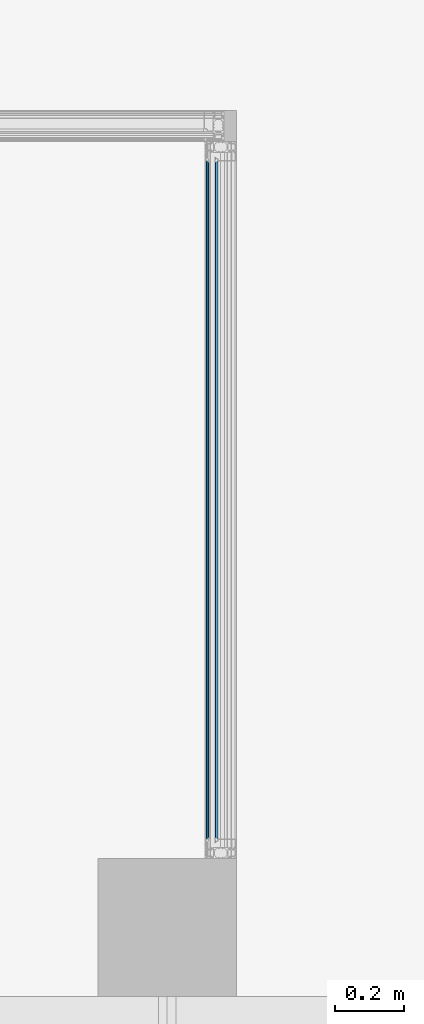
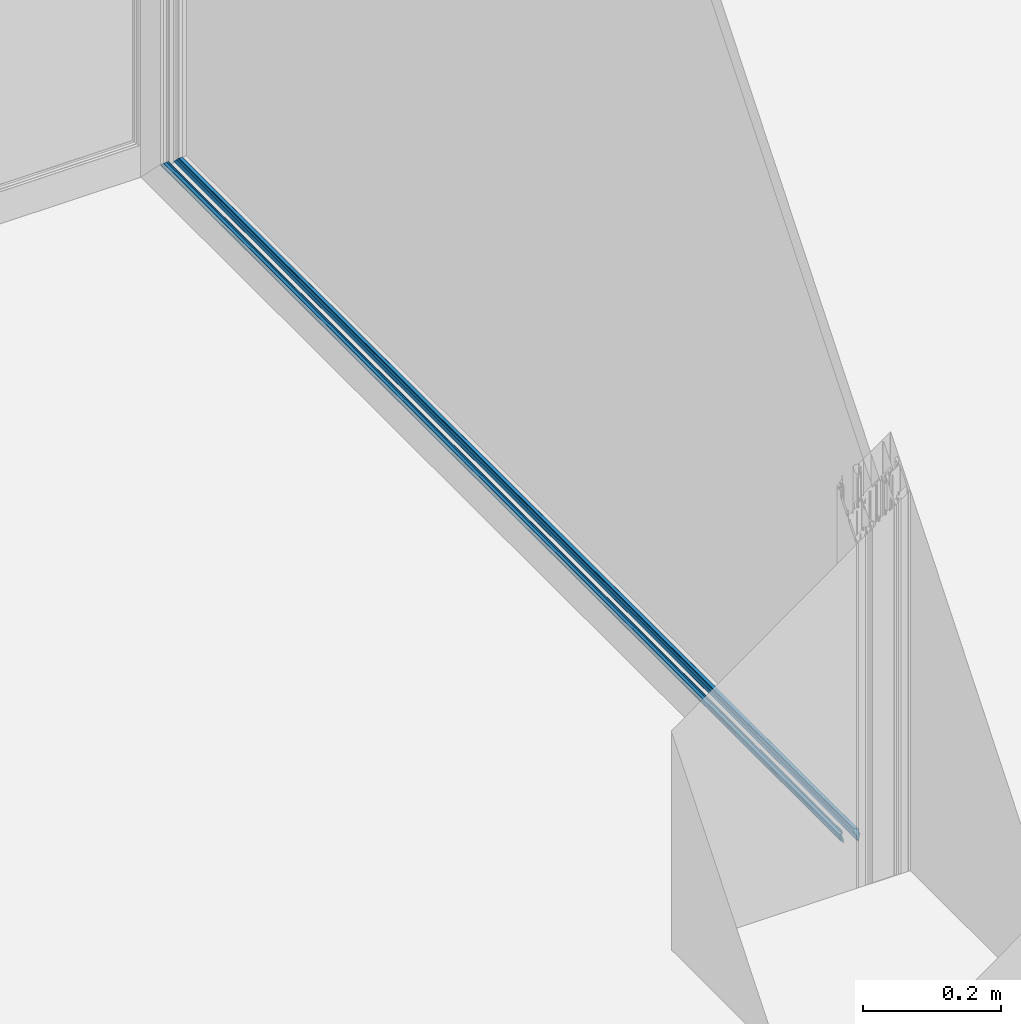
# One storey, part 23 of 69: 1 building element part, 2 elements without a shape of their own.
"""IFC2X3 building model written with IfcOpenShell, lengths in millimetres."""

import ifcopenshell
import ifcopenshell.guid

model = None  # the IFC model being written
_history = None  # IfcOwnerHistory: only IFC2X3 demands one
_inside = {}  # id of a spatial element -> (the spatial element, [elements in it])
_under = {}  # id of a project, library or spatial element -> (it, [spatial elements below it])
_declared = {}  # id of a project -> (the project, [libraries it declares])
_typed = {}  # id of a type object -> (the type object, [elements of that type])
_made_of = {}  # id of a material, layer set ... -> (it, [elements and type objects made of it])


def new_model(schema):
    """Start an empty IFC model of exactly this schema.

    Asked for "IFC4X3", IfcOpenShell would pick the latest addendum, in which some entities
    have other attributes; the version numbers below select the first issue.
    IFC2X3 requires an IfcOwnerHistory on every rooted entity: one is made here for all.
    """
    global model, _history
    if schema == "IFC4X3":
        model = ifcopenshell.file(schema_version=(4, 3, 0, 0))
    else:
        model = ifcopenshell.file(schema=schema)
    _inside.clear()
    _under.clear()
    _declared.clear()
    _typed.clear()
    _made_of.clear()
    _history = None
    if model.schema == "IFC2X3":
        org = make("IfcOrganization", Name="unknown")
        user = make(
            "IfcPersonAndOrganization",
            ThePerson=make("IfcPerson", FamilyName="unknown"),
            TheOrganization=org,
        )
        app = make(
            "IfcApplication",
            ApplicationDeveloper=org,
            Version="unknown",
            ApplicationFullName="unknown",
            ApplicationIdentifier="unknown",
        )
        _history = make(
            "IfcOwnerHistory",
            OwningUser=user,
            OwningApplication=app,
            ChangeAction="ADDED",
            CreationDate=0,
        )
    return model


def make(cls, **values):
    """One entity of the class cls with the attributes given. An attribute that is None is left unset."""
    return model.create_entity(
        cls, **{name: value for name, value in values.items() if value is not None}
    )


def entity(cls, *values):
    """Any entity or typed value of the class cls, its attributes in the order of the schema. None: left unset."""
    e = model.create_entity(cls)
    for i, value in enumerate(values):
        if value is not None:
            e[i] = value
    return e


def rooted(cls, **values):
    """An entity with a GlobalId (a new one), such as an element, a storey or a relation."""
    return make(cls, GlobalId=ifcopenshell.guid.new(), OwnerHistory=_history, **values)


def si_unit(unit_type, name, prefix=None):
    """IfcSIUnit, for example si_unit("LENGTHUNIT", "METRE", prefix="MILLI")."""
    return make("IfcSIUnit", UnitType=unit_type, Prefix=prefix, Name=name)


def converted_unit(unit_type, name, factor, base, dimensions=None, offset=None):
    """IfcConversionBasedUnit, such as the inch: factor (a typed value) times the base unit."""
    return make(
        "IfcConversionBasedUnit"
        if offset is None
        else "IfcConversionBasedUnitWithOffset",
        ConversionOffset=offset,
        Dimensions=None
        if dimensions is None
        else entity("IfcDimensionalExponents", *dimensions),
        UnitType=unit_type,
        Name=name,
        ConversionFactor=make(
            "IfcMeasureWithUnit", ValueComponent=factor, UnitComponent=base
        ),
    )


def derived_unit(unit_type, elements):
    """IfcDerivedUnit: a product of units, each with its exponent."""
    return make(
        "IfcDerivedUnit",
        Elements=[
            make("IfcDerivedUnitElement", Unit=unit, Exponent=power)
            for unit, power in elements
        ],
        UnitType=unit_type,
    )


def money_unit(currency):
    """IfcMonetaryUnit."""
    return make("IfcMonetaryUnit", Currency=currency)


def assignment(units):
    """IfcUnitAssignment: the units of a project."""
    return None if units is None else make("IfcUnitAssignment", Units=units)


def point(xyz):
    """IfcCartesianPoint."""
    return None if xyz is None else make("IfcCartesianPoint", Coordinates=xyz)


def direction(xyz):
    """IfcDirection."""
    return None if xyz is None else make("IfcDirection", DirectionRatios=xyz)


def frame(location, z_axis=None, x_axis=None):
    """IfcAxis2Placement3D, a coordinate frame: its origin and axes. An axis left out is left unset."""
    return make(
        "IfcAxis2Placement3D",
        Location=point(location),
        Axis=direction(z_axis),
        RefDirection=direction(x_axis),
    )


def origin_with_axes():
    """The frame at (0, 0, 0) with the z axis (0, 0, 1) and the x axis (1, 0, 0) written out."""
    return frame((0.0, 0.0, 0.0), z_axis=(0.0, 0.0, 1.0), x_axis=(1.0, 0.0, 0.0))


def place(relative_to, where):
    """IfcLocalPlacement: puts the frame where relative to a parent placement (None: the world)."""
    return make(
        "IfcLocalPlacement", PlacementRelTo=relative_to, RelativePlacement=where
    )


def context(
    kind, dimensions, precision=None, world=None, true_north=None, identifier=None
):
    """IfcGeometricRepresentationContext, for example the 3D "Model" context."""
    return make(
        "IfcGeometricRepresentationContext",
        ContextIdentifier=identifier,
        ContextType=kind,
        CoordinateSpaceDimension=dimensions,
        Precision=precision,
        WorldCoordinateSystem=world,
        TrueNorth=true_north,
    )


def subcontext(parent, identifier, kind, view, scale=None):
    """IfcGeometricRepresentationSubContext, for example "Body" below "Model"."""
    return make(
        "IfcGeometricRepresentationSubContext",
        ContextIdentifier=identifier,
        ContextType=kind,
        ParentContext=parent,
        TargetScale=scale,
        TargetView=view,
    )


def project(units=None, contexts=None):
    """IfcProject with its units and contexts."""
    return rooted(
        "IfcProject",
        Name="project",
        RepresentationContexts=contexts,
        UnitsInContext=assignment(units),
    )


def spatial(cls, under=None, at=None, **own):
    """A site, building, storey or space (cls), placed at a placement, below another one or the project."""
    s = rooted(cls, ObjectPlacement=at, **own)
    if under is not None:
        _under.setdefault(under.id(), (under, []))[1].append(s)
    return s


def faces_of(points, faces, orient=None, outer=None):
    """IfcFace entities. A face is a list of loops; a loop is a list of indices into points, from 0.

    orient and outer hold one flag for each loop. By default every Orientation is true, the
    first loop of a face is its IfcFaceOuterBound and the others are IfcFaceBound.
    """
    made = []
    for i, loops in enumerate(faces):
        bounds = []
        for j, loop in enumerate(loops):
            is_outer = j == 0 if outer is None else outer[i][j]
            bounds.append(
                make(
                    "IfcFaceOuterBound" if is_outer else "IfcFaceBound",
                    Bound=make("IfcPolyLoop", Polygon=[points[k] for k in loop]),
                    Orientation=True if orient is None else orient[i][j],
                )
            )
        made.append(make("IfcFace", Bounds=bounds))
    return made


def faceted_brep(points, faces, orient=None, outer=None, voids=None):
    """IfcFacetedBrep: a solid bounded by flat faces; with voids (closed shells), ...WithVoids."""
    shared = [point(p) for p in points]
    hull = make("IfcClosedShell", CfsFaces=faces_of(shared, faces, orient, outer))
    if voids is None:
        return make("IfcFacetedBrep", Outer=hull)
    return make(
        "IfcFacetedBrepWithVoids",
        Outer=hull,
        Voids=[
            make(cls, CfsFaces=faces_of(shared, fs, o, b)) for cls, fs, o, b in voids
        ],
    )


def shape(context_of_items, identifier, shape_type, items):
    """IfcShapeRepresentation: the items that make up one representation, for example the "Body"."""
    return make(
        "IfcShapeRepresentation",
        ContextOfItems=context_of_items,
        RepresentationIdentifier=identifier,
        RepresentationType=shape_type,
        Items=items,
    )


def material(Name=None, Category=None):
    """IfcMaterial."""
    return make("IfcMaterial", Name=Name, Category=Category)


def made_of(thing, what):
    """Note that an element or type object is made of a material, layer set ...; save() writes the relation."""
    if what is not None:
        _made_of.setdefault(what.id(), (what, []))[1].append(thing)
    return thing


def type_object(cls, material=None, **own):
    """A type object (cls), such as IfcWallType, which elements share."""
    return made_of(rooted(cls, **own), material)


def element(
    cls,
    number,
    at=None,
    inside=None,
    cuts=None,
    type_object=None,
    material=None,
    context=None,
    identifier="Body",
    shape_type=None,
    held_by="IfcProductDefinitionShape",
    body=None,
    shapes=None,
    **own,
):
    """One element of the class cls, such as IfcWall. Its Tag is "e" and its number.

    at: its placement. inside: the storey or other place that contains it. cuts: it is an
    opening in that element (IfcRelVoidsElement). A single representation is given by context,
    identifier, shape_type and body (its items); several are given by shapes. held_by: the class
    of the entity that holds the representations. save() writes the other relations.
    """
    e = rooted(cls, Tag="e%d" % number, ObjectPlacement=at, **own)
    if body is not None:
        shapes = [shape(context, identifier, shape_type, body)]
    if shapes is not None:
        e.Representation = make(held_by, Representations=shapes)
    if inside is not None:
        _inside.setdefault(inside.id(), (inside, []))[1].append(e)
    if cuts is not None:
        rooted(
            "IfcRelVoidsElement", RelatingBuildingElement=cuts, RelatedOpeningElement=e
        )
    if type_object is not None:
        _typed.setdefault(type_object.id(), (type_object, []))[1].append(e)
    return made_of(e, material)


def aggregate(whole, parts):
    """IfcRelAggregates: a whole, such as a stair, and the parts it consists of."""
    return rooted("IfcRelAggregates", RelatingObject=whole, RelatedObjects=parts)


def save(model, path):
    """Write the relations noted so far, then the file.

    IfcRelAggregates (storeys below a building ...), IfcRelContainedInSpatialStructure (elements
    in a storey), IfcRelDefinesByType, IfcRelAssociatesMaterial and IfcRelDeclares: one each for
    every whole, place, type object, material and project.
    """
    for whole, parts in _under.values():
        aggregate(whole, parts)
    for where, things in _inside.values():
        rooted(
            "IfcRelContainedInSpatialStructure",
            RelatedElements=things,
            RelatingStructure=where,
        )
    for kind, things in _typed.values():
        rooted("IfcRelDefinesByType", RelatedObjects=things, RelatingType=kind)
    for what, things in _made_of.values():
        rooted("IfcRelAssociatesMaterial", RelatedObjects=things, RelatingMaterial=what)
    for by, libraries in _declared.values():
        rooted("IfcRelDeclares", RelatingContext=by, RelatedDefinitions=libraries)
    model.write(path)


model = new_model("IFC2X3")

# Units and contexts
model_context = context("Model", 3, precision=0.01, world=origin_with_axes(), true_north=direction((0.0, 1.0)))
body_context = subcontext(model_context, "Body", "Model", "MODEL_VIEW")
ifc_project = project(units=[si_unit("LENGTHUNIT", "METRE", prefix="MILLI"), si_unit("AREAUNIT", "SQUARE_METRE"), si_unit("VOLUMEUNIT", "CUBIC_METRE"), converted_unit("PLANEANGLEUNIT", "DEGREE", entity("IfcPlaneAngleMeasure", 0.0174532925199), si_unit("PLANEANGLEUNIT", "RADIAN"), dimensions=[0, 0, 0, 0, 0, 0, 0]), si_unit("SOLIDANGLEUNIT", "STERADIAN"), money_unit("EUR"), converted_unit("TIMEUNIT", "Year", entity("IfcTimeMeasure", 31556926.0), si_unit("TIMEUNIT", "SECOND"), dimensions=[0, 0, 1, 0, 0, 0, 0]), si_unit("MASSUNIT", "GRAM", prefix="KILO"), si_unit("THERMODYNAMICTEMPERATUREUNIT", "DEGREE_CELSIUS"), si_unit("LUMINOUSINTENSITYUNIT", "LUMEN"), si_unit("ENERGYUNIT", "JOULE", prefix="MEGA"), derived_unit("THERMALCONDUCTANCEUNIT", [(si_unit("POWERUNIT", "WATT"), 1), (si_unit("LENGTHUNIT", "METRE"), -1), (si_unit("THERMODYNAMICTEMPERATUREUNIT", "KELVIN"), -1)]), derived_unit("SPECIFICHEATCAPACITYUNIT", [(si_unit("ENERGYUNIT", "JOULE"), 1), (si_unit("MASSUNIT", "GRAM", prefix="KILO"), -1), (si_unit("THERMODYNAMICTEMPERATUREUNIT", "KELVIN"), -1)]), derived_unit("MASSDENSITYUNIT", [(si_unit("MASSUNIT", "GRAM", prefix="KILO"), 1), (si_unit("VOLUMEUNIT", "CUBIC_METRE"), -1)])], contexts=[model_context])

# Site, building, storey
site_placement = place(None, origin_with_axes())
site = spatial("IfcSite", under=ifc_project, at=site_placement, Name="Puškini 31, Narva", CompositionType="ELEMENT")
building_placement = place(site_placement, origin_with_axes())
building = spatial("IfcBuilding", under=site, at=building_placement, Name="Narva Riigigümnaasium", CompositionType="ELEMENT")
storey_placement = place(building_placement, origin_with_axes())
storey = spatial("IfcBuildingStorey", under=building, at=storey_placement, Name="1.korrus 0.00", CompositionType="ELEMENT", Elevation=0.0)

# Curtain wall, member, building element part
curtain_wall_type = type_object("IfcCurtainWallType", Name="Curtain Wall Type", PredefinedType="NOTDEFINED")
curtain_wall_placement = place(storey_placement, frame((22285.3673645, 151537.502931, -7.26812883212e-05), z_axis=(0.0, 0.0, 1.0), x_axis=(1.0, 0.0, 0.0)))
curtain_wall = element("IfcCurtainWall", 1, at=curtain_wall_placement, inside=storey, type_object=curtain_wall_type, Name="G-KLF-01-2")
member_type = type_object("IfcMemberType", Name="61 x 45", PredefinedType="MULLION")
member_placement = place(curtain_wall_placement, frame((0.0, -1037.50292152, 1.740620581e-05), z_axis=(0.0, 1.0, 0.0), x_axis=(0.0, 0.0, 1.0)))
member = element("IfcMember", 2, at=member_placement, type_object=member_type, Name="G-SKLF-02-raam", ObjectType="MULLION")
aggregate(curtain_wall, [member])
ifc_material = material(Name="Membraan - Veekindel")
building_element_part_placement = place(member_placement, origin_with_axes())
building_element_part = element("IfcBuildingElementPart", 3, at=building_element_part_placement, material=ifc_material, Name="Membraan - Veekindel", context=body_context, shape_type="Brep", body=[
    faceted_brep([(59.5800222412, -34.73794757, 59.5800222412), (61.0413385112, -34.3890442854, 61.0413385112), (61.0413385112, -34.3890442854, 2013.96450452), (59.5800222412, -34.73794757, 2015.42582079), (58.4755028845, -35.3628499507, 58.4755028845), (57.9693613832, -36.5265882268, 57.9693613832), (57.7000324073, -39.5999584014, 57.7000324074), (57.6464370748, -39.7999717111, 57.6464370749), (57.5000161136, -39.9463912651, 57.5000161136), (57.3000022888, -39.9999846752, 57.3000022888), (57.3000022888, -39.1999494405, 57.3000022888), (55.3000210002, -39.1999606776, 55.3000210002), (55.2330337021, -38.9499606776, 55.2330337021), (55.0500210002, -38.7669479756, 55.0500210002), (54.8000210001, -38.6999606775, 54.8000210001), (54.5500210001, -38.7669479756, 54.550021), (54.3670082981, -38.9499606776, 54.3670082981), (54.300021, -39.1999606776, 54.300021), (54.300021, -40.4999366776, 54.300021), (54.3402133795, -40.6499366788, 54.3402133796), (54.4500210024, -40.7597443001, 54.4500210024), (54.6000210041, -40.7999366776, 54.6000210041), (54.7000173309, -40.7999366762, 54.7000173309), (54.866675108, -40.850483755, 54.866675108), (54.9771753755, -40.9850924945, 54.9771753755), (54.9942836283, -41.1584047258, 54.9942836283), (54.9122350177, -41.3120206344, 54.9122350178), (53.8716106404, -42.3533776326, 53.8716106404), (53.7093558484, -42.4618547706, 53.7093558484), (53.517932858, -42.4999486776, 53.517932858), (51.8818844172, -42.4999486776, 51.8818844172), (51.6904310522, -42.4618421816, 51.6904310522), (51.5281601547, -42.3533311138, 51.5281601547), (50.4878083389, -41.3119729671, 50.4878083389), (50.4057850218, -41.1583618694, 50.4057850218), (50.4229059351, -40.9850671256, 50.4229059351), (50.5334025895, -40.8504763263, 50.5334025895), (50.7000457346, -40.7999366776, 50.7000457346), (50.80004, -40.7999366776, 50.80004), (50.95004, -40.7597442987, 50.95004), (51.0598476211, -40.6499366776, 51.0598476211), (51.10004, -40.4999366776, 51.10004), (51.10004, -39.1999550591, 51.10004), (51.0330541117, -38.9499546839, 51.0330541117), (50.8500424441, -38.7669409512, 50.8500424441), (50.6000428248, -38.699952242, 50.6000428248), (50.3500424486, -38.7669381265, 50.3500424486), (50.1670287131, -38.9499497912, 50.1670287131), (50.10004, -39.1999494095, 50.10004), (48.7206527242, -39.1999494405, 48.7206527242), (48.7206527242, -38.0023809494, 48.7206527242), (48.7876400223, -37.7523809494, 48.7876400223), (48.9706527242, -37.5693682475, 48.9706527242), (49.2206527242, -37.5023809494, 49.2206527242), (50.3319753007, -37.5023809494, 50.3319753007), (50.5819753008, -37.4353936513, 50.5819753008), (50.7649880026, -37.2523809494, 50.7649880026), (51.1691331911, -36.5523809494, 51.1691331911), (51.352145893, -36.3693682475, 51.352145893), (51.602145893, -36.3023809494, 51.602145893), (53.8391557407, -36.3023809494, 53.8391557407), (54.0891557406, -36.3693682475, 54.0891557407), (54.2721684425, -36.5523809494, 54.2721684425), (54.676313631, -37.2523809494, 54.676313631), (54.8593263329, -37.4353936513, 54.8593263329), (55.1093263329, -37.5023809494, 55.1093263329), (55.7607444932, -37.5023809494, 55.7607444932), (55.9795989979, -37.4519392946, 55.9795989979), (56.1542959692, -37.3107917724, 56.1542959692), (56.2495873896, -37.1074172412, 56.2495873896), (56.9567944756, -35.6067920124, 56.9567944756), (58.2346494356, -34.5489145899, 58.2346494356), (59.8409257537, -34.1343131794, 59.8409257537), (60.7381535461, -33.9217644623, 60.7381535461), (61.0108941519, -33.784859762, 61.0108941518), (61.1423164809, -33.9681748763, 61.1423164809), (61.1536677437, -34.1934467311, 61.1536677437), (53.5000340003, -40.7999553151, 53.5000340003), (53.433048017, -39.44993177, 53.433048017), (53.2500389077, -39.2669226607, 53.2500389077), (53.0000438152, -39.1999366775, 53.0000438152), (52.4000171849, -39.1999366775, 52.4000171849), (52.1500220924, -39.2669226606, 52.1500220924), (51.9670129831, -39.4499317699, 51.9670129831), (51.9000269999, -39.6999268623, 51.9000269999), (51.9000269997, -40.799955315, 51.9000269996), (51.9670118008, -41.0499459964, 51.9670118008), (52.150017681, -41.2329518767, 52.150017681), (52.4000083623, -41.299936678, 52.4000083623), (53.0000526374, -41.299936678, 53.0000526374), (53.2500433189, -41.2329518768, 53.2500433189), (53.4330491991, -41.0499459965, 53.4330491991), (61.1536677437, -34.1934467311, 2013.85217529), (61.1423164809, -33.9681748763, 2013.86352655), (61.0108941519, -33.784859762, 2013.99494888), (60.7381535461, -33.9217644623, 2014.26768948), (59.8409257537, -34.1343131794, 2015.16491728), (58.2346494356, -34.5489145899, 2016.7711936), (56.9567944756, -35.6067920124, 2018.04904856), (56.2495873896, -37.1074172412, 2018.75625564), (56.1542959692, -37.3107917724, 2018.85154706), (55.9795989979, -37.4519392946, 2019.02624403), (55.7607444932, -37.5023809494, 2019.24509854), (55.1093263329, -37.5023809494, 2019.8965167), (54.8593263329, -37.4353936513, 2020.1465167), (54.676313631, -37.2523809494, 2020.3295294), (54.2721684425, -36.5523809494, 2020.73367459), (54.0891557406, -36.3693682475, 2020.91668729), (53.8391557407, -36.3023809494, 2021.16668729), (51.602145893, -36.3023809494, 2023.40369714), (51.352145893, -36.3693682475, 2023.65369714), (51.1691331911, -36.5523809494, 2023.83670984), (50.7649880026, -37.2523809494, 2024.24085503), (50.5819753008, -37.4353936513, 2024.42386773), (50.3319753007, -37.5023809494, 2024.67386773), (49.2206527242, -37.5023809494, 2025.78519031), (48.9706527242, -37.5693682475, 2026.03519031), (48.7876400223, -37.7523809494, 2026.21820301), (48.7206527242, -38.0023809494, 2026.28519031), (48.7206527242, -39.1999494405, 2026.28519031), (50.10004, -39.1999494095, 2024.90580303), (50.1670287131, -38.9499497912, 2024.83881432), (50.3500424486, -38.7669381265, 2024.65580058), (50.6000428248, -38.699952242, 2024.40580021), (50.8500424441, -38.7669409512, 2024.15580059), (51.0330541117, -38.9499546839, 2023.97278892), (51.10004, -39.1999550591, 2023.90580303), (51.10004, -40.4999366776, 2023.90580303), (51.0598476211, -40.6499366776, 2023.94599541), (50.95004, -40.7597442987, 2024.05580303), (50.80004, -40.7999366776, 2024.20580303), (50.7000457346, -40.7999366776, 2024.3057973), (50.5334025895, -40.8504763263, 2024.47244044), (50.4229059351, -40.9850671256, 2024.5829371), (50.4057850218, -41.1583618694, 2024.60005801), (50.4878083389, -41.3119729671, 2024.51803469), (51.5281601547, -42.3533311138, 2023.47768288), (51.6904310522, -42.4618421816, 2023.31541198), (51.8818844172, -42.4999486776, 2023.12395861), (53.517932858, -42.4999486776, 2021.48791017), (53.7093558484, -42.4618547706, 2021.29648718), (53.8716106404, -42.3533776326, 2021.13423239), (54.9122350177, -41.3120206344, 2020.09360801), (54.9942836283, -41.1584047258, 2020.0115594), (54.9771753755, -40.9850924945, 2020.02866766), (54.866675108, -40.850483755, 2020.13916792), (54.7000173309, -40.7999366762, 2020.3058257), (54.6000210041, -40.7999366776, 2020.40582203), (54.4500210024, -40.7597443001, 2020.55582203), (54.3402133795, -40.6499366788, 2020.66562965), (54.300021, -40.4999366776, 2020.70582203), (54.300021, -39.1999606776, 2020.70582203), (54.3670082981, -38.9499606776, 2020.63883473), (54.5500210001, -38.7669479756, 2020.45582203), (54.8000210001, -38.6999606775, 2020.20582203), (55.0500210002, -38.7669479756, 2019.95582203), (55.2330337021, -38.9499606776, 2019.77280933), (55.3000210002, -39.1999606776, 2019.70582203), (57.3000022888, -39.1999494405, 2017.70584074), (57.3000022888, -39.9999846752, 2017.70584074), (57.5000161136, -39.946391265, 2017.50582692), (57.6464370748, -39.799971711, 2017.35940596), (57.7000324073, -39.5999584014, 2017.30581062), (57.9693613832, -36.5265882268, 2017.03648165), (58.4755028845, -35.3628499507, 2016.53034015), (53.5000340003, -40.7999553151, 2021.50580903), (53.4330491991, -41.0499459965, 2021.57279383), (53.2500433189, -41.2329518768, 2021.75579971), (53.0000526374, -41.299936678, 2022.00579039), (52.4000083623, -41.299936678, 2022.60583467), (52.150017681, -41.2329518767, 2022.85582535), (51.9670118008, -41.0499459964, 2023.03883123), (51.9000269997, -40.799955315, 2023.10581603), (51.9000269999, -39.6999268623, 2023.10581603), (51.9670129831, -39.4499317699, 2023.03883005), (52.1500220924, -39.2669226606, 2022.85582094), (52.4000171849, -39.1999366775, 2022.60582585), (53.0000438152, -39.1999366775, 2022.00579922), (53.2500389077, -39.2669226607, 2021.75580412), (53.433048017, -39.44993177, 2021.57279501)], [[[0, 1, 2, 3]], [[1, 0, 4, 5, 6, 7, 8, 9, 10, 11, 12, 13, 14, 15, 16, 17, 18, 19, 20, 21, 22, 23, 24, 25, 26, 27, 28, 29, 30, 31, 32, 33, 34, 35, 36, 37, 38, 39, 40, 41, 42, 43, 44, 45, 46, 47, 48, 49, 50, 51, 52, 53, 54, 55, 56, 57, 58, 59, 60, 61, 62, 63, 64, 65, 66, 67, 68, 69, 70, 71, 72, 73, 74, 75, 76], [77, 78, 79, 80, 81, 82, 83, 84, 85, 86, 87, 88, 89, 90, 91]], [[1, 76, 92, 2]], [[2, 92, 93, 94, 95, 96, 97, 98, 99, 100, 101, 102, 103, 104, 105, 106, 107, 108, 109, 110, 111, 112, 113, 114, 115, 116, 117, 118, 119, 120, 121, 122, 123, 124, 125, 126, 127, 128, 129, 130, 131, 132, 133, 134, 135, 136, 137, 138, 139, 140, 141, 142, 143, 144, 145, 146, 147, 148, 149, 150, 151, 152, 153, 154, 155, 156, 157, 158, 159, 160, 161, 162, 163, 164, 3], [165, 166, 167, 168, 169, 170, 171, 172, 173, 174, 175, 176, 177, 178, 179]], [[4, 0, 3, 164]], [[5, 4, 164, 163]], [[6, 5, 163, 162]], [[7, 6, 162, 161]], [[8, 7, 161, 160]], [[9, 8, 160, 159]], [[10, 9, 159, 158]], [[11, 10, 158, 157]], [[12, 11, 157, 156]], [[13, 12, 156, 155]], [[14, 13, 155, 154]], [[15, 14, 154, 153]], [[16, 15, 153, 152]], [[17, 16, 152, 151]], [[18, 17, 151, 150]], [[19, 18, 150, 149]], [[20, 19, 149, 148]], [[21, 20, 148, 147]], [[22, 21, 147, 146]], [[23, 22, 146, 145]], [[24, 23, 145, 144]], [[25, 24, 144, 143]], [[26, 25, 143, 142]], [[27, 26, 142, 141]], [[28, 27, 141, 140]], [[29, 28, 140, 139]], [[30, 29, 139, 138]], [[31, 30, 138, 137]], [[32, 31, 137, 136]], [[33, 32, 136, 135]], [[34, 33, 135, 134]], [[35, 34, 134, 133]], [[36, 35, 133, 132]], [[37, 36, 132, 131]], [[38, 37, 131, 130]], [[39, 38, 130, 129]], [[40, 39, 129, 128]], [[41, 40, 128, 127]], [[42, 41, 127, 126]], [[43, 42, 126, 125]], [[44, 43, 125, 124]], [[45, 44, 124, 123]], [[46, 45, 123, 122]], [[47, 46, 122, 121]], [[48, 47, 121, 120]], [[49, 48, 120, 119]], [[50, 49, 119, 118]], [[51, 50, 118, 117]], [[52, 51, 117, 116]], [[53, 52, 116, 115]], [[54, 53, 115, 114]], [[55, 54, 114, 113]], [[56, 55, 113, 112]], [[57, 56, 112, 111]], [[58, 57, 111, 110]], [[59, 58, 110, 109]], [[60, 59, 109, 108]], [[61, 60, 108, 107]], [[62, 61, 107, 106]], [[63, 62, 106, 105]], [[64, 63, 105, 104]], [[65, 64, 104, 103]], [[66, 65, 103, 102]], [[67, 66, 102, 101]], [[68, 67, 101, 100]], [[69, 68, 100, 99]], [[70, 69, 99, 98]], [[71, 70, 98, 97]], [[72, 71, 97, 96]], [[73, 72, 96, 95]], [[74, 73, 95, 94]], [[75, 74, 94, 93]], [[76, 75, 93, 92]], [[78, 77, 165, 179]], [[79, 78, 179, 178]], [[80, 79, 178, 177]], [[81, 80, 177, 176]], [[82, 81, 176, 175]], [[83, 82, 175, 174]], [[84, 83, 174, 173]], [[85, 84, 173, 172]], [[86, 85, 172, 171]], [[87, 86, 171, 170]], [[88, 87, 170, 169]], [[89, 88, 169, 168]], [[90, 89, 168, 167]], [[91, 90, 167, 166]], [[77, 91, 166, 165]]]),
    faceted_brep([(55.9926715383, -16.8063498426, 55.9926715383), (59.0307115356, -16.554149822, 59.0307115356), (59.0307115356, -16.554149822, 2015.9751315), (55.9926715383, -16.8063498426, 2019.01317149), (53.7899070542, -16.6230039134, 53.7899070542), (53.1225200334, -16.3483062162, 53.1225200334), (51.5205025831, -15.0099586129, 51.5205025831), (51.3011765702, -14.8998814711, 51.3011765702), (51.0558924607, -14.9074036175, 51.0558924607), (50.8437237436, -15.0307134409, 50.8437237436), (50.5536994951, -15.2121179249, 50.5536994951), (46.298307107, -16.7340705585, 46.298307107), (45.950966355, -16.7718696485, 45.950966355), (45.6241929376, -16.6482027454, 45.6241929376), (45.3889077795, -16.3899097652, 45.3889077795), (45.3195226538, -16.2152275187, 45.3195226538), (45.3418968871, -15.7688623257, 45.3418968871), (45.6142070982, -15.4144760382, 45.6142070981), (51.8169217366, -8.74599822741, 51.8169217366), (51.938943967, -8.6326446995, 51.938943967), (52.1026310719, -8.60190419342, 52.1026310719), (52.2574645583, -8.66326410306, 52.2574645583), (52.3556584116, -8.79778701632, 52.3556584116), (52.7761212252, -9.95299910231, 52.7761212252), (52.8859560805, -10.0961386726, 52.8859560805), (53.0580290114, -10.1503930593, 53.0580290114), (55.1123574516, -10.1503930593, 55.1123574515), (55.2731258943, -10.1036784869, 55.2731258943), (55.3838261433, -9.9780831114, 55.3838261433), (55.4099827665, -9.81272116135, 55.4099827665), (55.2940485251, -8.85237785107, 55.2940485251), (55.3307332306, -8.72753828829, 55.3307332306), (55.4168250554, -8.62997353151, 55.4168250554), (55.5361285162, -8.57803733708, 55.5361285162), (56.9361285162, -8.30590490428, 56.9361285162), (57.0661058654, -8.3093438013, 57.0661058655), (57.1824204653, -8.36745448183, 57.1824204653), (57.2632233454, -8.46932121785, 57.2632233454), (57.5418652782, -10.0035930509, 57.5418652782), (59.3405112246, -15.0012955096, 59.3405112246), (59.5001582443, -15.5494067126, 59.5001582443), (59.3884652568, -16.1092618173, 59.3884652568), (59.3884652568, -16.1092618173, 2015.61737777), (59.5001582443, -15.5494067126, 2015.50568479), (59.3405112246, -15.0012955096, 2015.66533181), (57.5418652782, -10.0035930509, 2017.46397775), (57.2632233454, -8.46932121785, 2017.74261969), (57.1824204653, -8.36745448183, 2017.82342257), (57.0661058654, -8.3093438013, 2017.93973717), (56.9361285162, -8.30590490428, 2018.06971451), (55.5361285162, -8.57803733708, 2019.46971451), (55.4168250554, -8.62997353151, 2019.58901798), (55.3307332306, -8.72753828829, 2019.6751098), (55.2940485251, -8.85237785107, 2019.71179451), (55.4099827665, -9.81272116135, 2019.59586026), (55.3838261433, -9.9780831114, 2019.62201689), (55.2731258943, -10.1036784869, 2019.73271714), (55.1123574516, -10.1503930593, 2019.89348558), (53.0580290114, -10.1503930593, 2021.94781402), (52.8859560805, -10.0961386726, 2022.11988695), (52.7761212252, -9.95299910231, 2022.22972181), (52.3556584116, -8.79778701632, 2022.65018462), (52.2574645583, -8.66326410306, 2022.74837847), (52.1026310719, -8.60190419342, 2022.90321196), (51.938943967, -8.6326446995, 2023.06689906), (51.8169217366, -8.74599822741, 2023.18892129), (45.6142070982, -15.4144760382, 2029.39163593), (45.3418968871, -15.7688623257, 2029.66394614), (45.3195226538, -16.2152275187, 2029.68632038), (45.3889077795, -16.3899097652, 2029.61693525), (45.6241929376, -16.6482027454, 2029.38165009), (45.950966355, -16.7718696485, 2029.05487668), (46.298307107, -16.7340705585, 2028.70753592), (50.5536994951, -15.2121179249, 2024.45214354), (50.8437237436, -15.0307134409, 2024.16211929), (51.0558924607, -14.9074036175, 2023.94995057), (51.3011765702, -14.8998814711, 2023.70466646), (51.5205025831, -15.0099586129, 2023.48534045), (53.1225200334, -16.3483062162, 2021.883323), (53.7899070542, -16.6230039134, 2021.21593598)], [[[0, 1, 2, 3]], [[1, 0, 4, 5, 6, 7, 8, 9, 10, 11, 12, 13, 14, 15, 16, 17, 18, 19, 20, 21, 22, 23, 24, 25, 26, 27, 28, 29, 30, 31, 32, 33, 34, 35, 36, 37, 38, 39, 40, 41]], [[1, 41, 42, 2]], [[2, 42, 43, 44, 45, 46, 47, 48, 49, 50, 51, 52, 53, 54, 55, 56, 57, 58, 59, 60, 61, 62, 63, 64, 65, 66, 67, 68, 69, 70, 71, 72, 73, 74, 75, 76, 77, 78, 79, 3]], [[4, 0, 3, 79]], [[5, 4, 79, 78]], [[6, 5, 78, 77]], [[7, 6, 77, 76]], [[8, 7, 76, 75]], [[9, 8, 75, 74]], [[10, 9, 74, 73]], [[11, 10, 73, 72]], [[12, 11, 72, 71]], [[13, 12, 71, 70]], [[14, 13, 70, 69]], [[15, 14, 69, 68]], [[16, 15, 68, 67]], [[17, 16, 67, 66]], [[18, 17, 66, 65]], [[19, 18, 65, 64]], [[20, 19, 64, 63]], [[21, 20, 63, 62]], [[22, 21, 62, 61]], [[23, 22, 61, 60]], [[24, 23, 60, 59]], [[25, 24, 59, 58]], [[26, 25, 58, 57]], [[27, 26, 57, 56]], [[28, 27, 56, 55]], [[29, 28, 55, 54]], [[30, 29, 54, 53]], [[31, 30, 53, 52]], [[32, 31, 52, 51]], [[33, 32, 51, 50]], [[34, 33, 50, 49]], [[35, 34, 49, 48]], [[36, 35, 48, 47]], [[37, 36, 47, 46]], [[38, 37, 46, 45]], [[39, 38, 45, 44]], [[40, 39, 44, 43]], [[41, 40, 43, 42]]]),
])
aggregate(member, [building_element_part])

save(model, "model.ifc")
